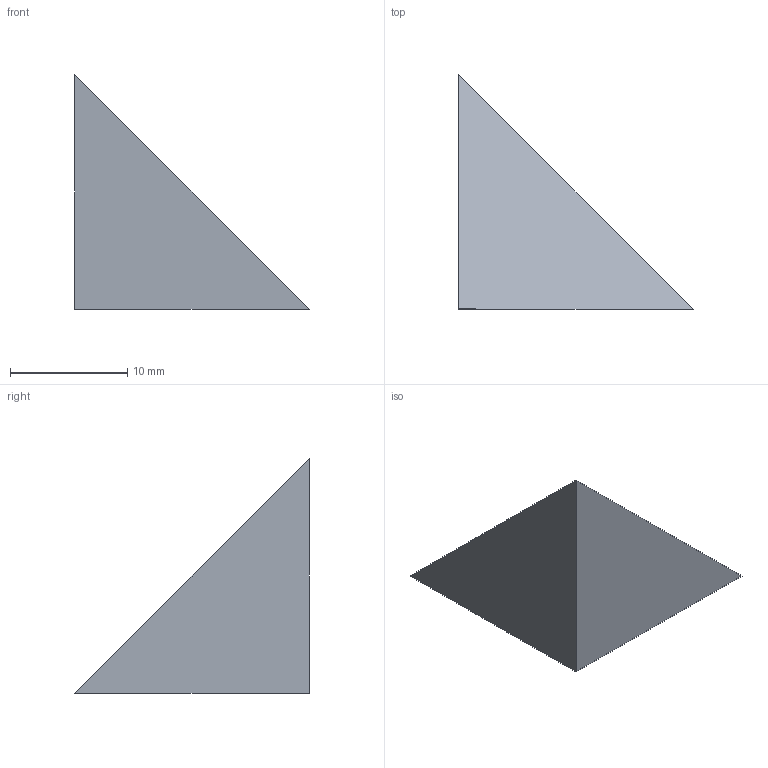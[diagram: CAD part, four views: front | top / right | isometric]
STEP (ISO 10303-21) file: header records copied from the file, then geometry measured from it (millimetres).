
FILE_DESCRIPTION(('BRL-CAD AP214 BREP with voids fixture'),'2;1');
FILE_NAME('ap214_brep_with_voids.stp','2026-07-17T00:00:00',('BRL-CAD'),('BRL-CAD'),'','','');
FILE_SCHEMA(('AUTOMOTIVE_DESIGN { 1 0 10303 214 3 1 1 1 }'));
Length unit declared in the file: millimetre
Products named in the file (1): void_tetra
Bounding box: 20 x 20 x 20 mm (x, y, z)
Volume: 2662.2 mm3; surface area: 1914.1 mm2
Topology: 2 solids, 3 shells, 12 faces, 18 edges, 12 vertices
Faces by surface type: plane 12
Entity records: 149 total; most frequent: ORIENTED_EDGE 24, DIRECTION 12, LINE 12, EDGE_CURVE 12, AXIS2_PLACEMENT_3D 9, CARTESIAN_POINT 8, VERTEX_POINT 8, EDGE_LOOP 8
